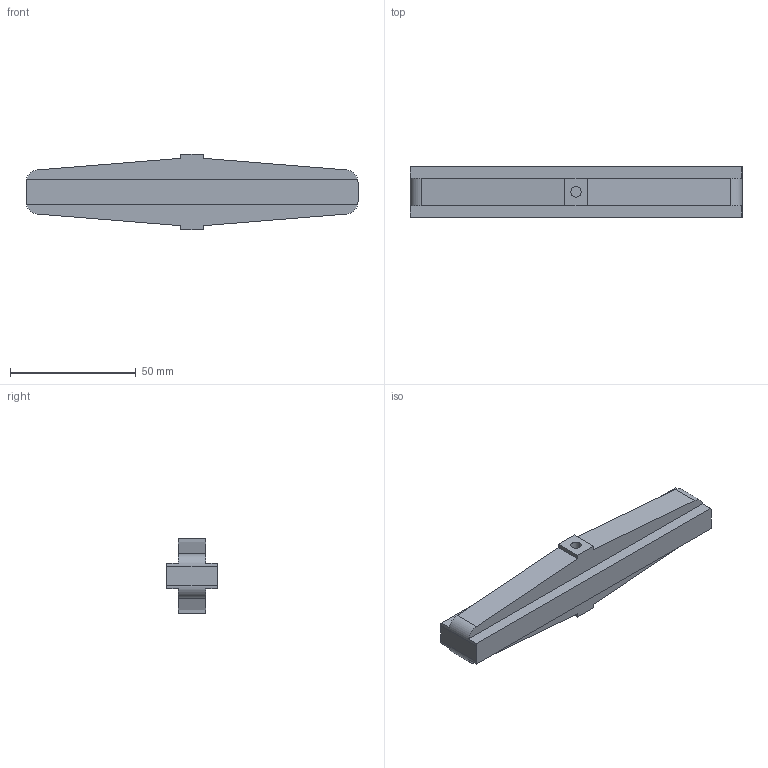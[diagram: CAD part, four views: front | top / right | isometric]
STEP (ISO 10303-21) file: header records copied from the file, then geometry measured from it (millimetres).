
FILE_DESCRIPTION (( 'STEP AP214' ), '1' );
FILE_NAME ('1500A10三维外形尺寸图-2024.05.20.STEP', '2024-05-20T00:46:17', ( 'User' ), ( 'china' ), 'SwSTEP 2.0', 'SolidWorks 2016', '' );
FILE_SCHEMA (( 'AUTOMOTIVE_DESIGN' ));
Length unit declared in the file: millimetre
Products named in the file (1): 1500A10三维外形尺寸图-2024.05.20
Bounding box: 132 x 20 x 30 mm (x, y, z)
Volume: 43968.3 mm3; surface area: 11849.1 mm2
Topology: 1 solids, 1 shells, 32 faces, 84 edges, 56 vertices
Faces by surface type: plane 24, cylinder 8
Entity records: 1070 total; most frequent: DIRECTION 174, CARTESIAN_POINT 173, ORIENTED_EDGE 168, EDGE_CURVE 84, VECTOR 60, LINE 60, AXIS2_PLACEMENT_3D 57, VERTEX_POINT 56
